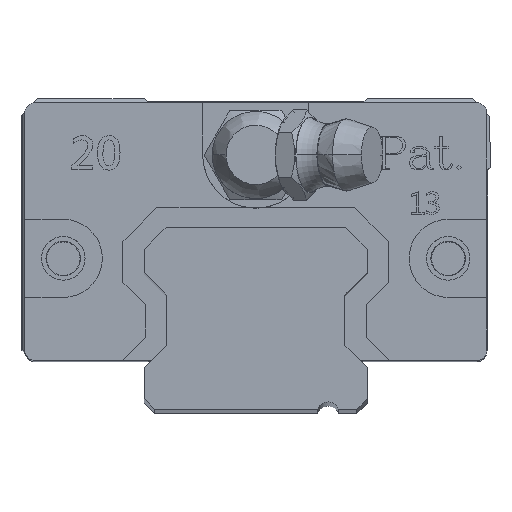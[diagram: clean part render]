
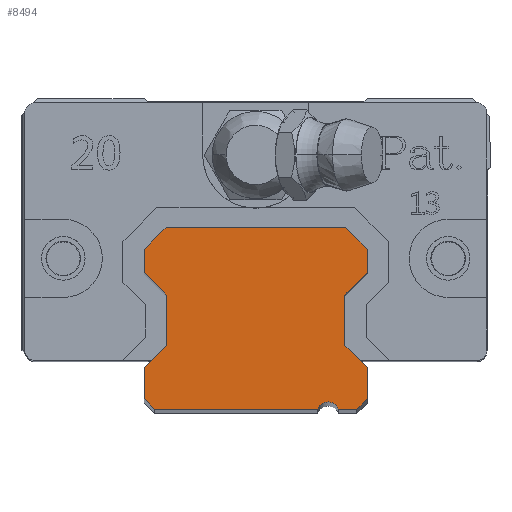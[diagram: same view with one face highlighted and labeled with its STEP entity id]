
A CAD part, top view. The second image highlights one B-rep face of the part: STEP entity #8494.
In plain terms, the highlighted planar face has unit normal (0, 0, 1).
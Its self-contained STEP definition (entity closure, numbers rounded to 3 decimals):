
#2 = VECTOR ( 'NONE', #5114, 1000. ) ;
#214 = ORIENTED_EDGE ( 'NONE', *, *, #2136, .T. ) ;
#606 = DIRECTION ( 'NONE',  ( 0., 1., 0. ) ) ;
#607 = CARTESIAN_POINT ( 'NONE',  ( 6.5, -14.69, 110. ) ) ;
#712 = DIRECTION ( 'NONE',  ( -1., 0., 0. ) ) ;
#777 = LINE ( 'NONE', #5893, #14917 ) ;
#1008 = ORIENTED_EDGE ( 'NONE', *, *, #13046, .T. ) ;
#1052 = LINE ( 'NONE', #17226, #2 ) ;
#1309 = VERTEX_POINT ( 'NONE', #2176 ) ;
#1709 = EDGE_CURVE ( 'NONE', #1777, #15656, #6228, .T. ) ;
#1777 = VERTEX_POINT ( 'NONE', #13558 ) ;
#1821 = DIRECTION ( 'NONE',  ( 0., 1., 0. ) ) ;
#1963 = EDGE_CURVE ( 'NONE', #3154, #1777, #15395, .T. ) ;
#2136 = EDGE_CURVE ( 'NONE', #14447, #1309, #12022, .T. ) ;
#2176 = CARTESIAN_POINT ( 'NONE',  ( -10., -2.1, 110. ) ) ;
#2268 = VECTOR ( 'NONE', #12169, 1000. ) ;
#2354 = EDGE_CURVE ( 'NONE', #3418, #8303, #4488, .T. ) ;
#2644 = FACE_OUTER_BOUND ( 'NONE', #16187, .T. ) ;
#2658 = EDGE_CURVE ( 'NONE', #3926, #10911, #11096, .T. ) ;
#2765 = CARTESIAN_POINT ( 'NONE',  ( -10., -10.6, 110. ) ) ;
#2922 = DIRECTION ( 'NONE',  ( 0.707, -0.707, 0. ) ) ;
#2951 = VERTEX_POINT ( 'NONE', #2765 ) ;
#2957 = DIRECTION ( 'NONE',  ( 0., -1., 0. ) ) ;
#3022 = ORIENTED_EDGE ( 'NONE', *, *, #1709, .T. ) ;
#3120 = ORIENTED_EDGE ( 'NONE', *, *, #4978, .T. ) ;
#3128 = ORIENTED_EDGE ( 'NONE', *, *, #7072, .T. ) ;
#3135 = VECTOR ( 'NONE', #1821, 1000. ) ;
#3154 = VERTEX_POINT ( 'NONE', #12852 ) ;
#3182 = LINE ( 'NONE', #7423, #5700 ) ;
#3418 = VERTEX_POINT ( 'NONE', #13731 ) ;
#3675 = CARTESIAN_POINT ( 'NONE',  ( -10., 0., 110. ) ) ;
#3767 = LINE ( 'NONE', #12425, #4778 ) ;
#3870 = VECTOR ( 'NONE', #4319, 1000. ) ;
#3926 = VERTEX_POINT ( 'NONE', #7724 ) ;
#3984 = CARTESIAN_POINT ( 'NONE',  ( -8.035, 1.965, 110. ) ) ;
#4112 = CARTESIAN_POINT ( 'NONE',  ( -10., -10.6, 110. ) ) ;
#4151 = ORIENTED_EDGE ( 'NONE', *, *, #2354, .T. ) ;
#4196 = DIRECTION ( 'NONE',  ( -0.707, 0.707, 0. ) ) ;
#4311 = VECTOR ( 'NONE', #9379, 1000. ) ;
#4319 = DIRECTION ( 'NONE',  ( -0.707, 0.707, 0. ) ) ;
#4441 = VECTOR ( 'NONE', #10324, 1000. ) ;
#4477 = ORIENTED_EDGE ( 'NONE', *, *, #14496, .T. ) ;
#4488 = LINE ( 'NONE', #6880, #3870 ) ;
#4518 = CARTESIAN_POINT ( 'NONE',  ( -10., -13.4, 110. ) ) ;
#4630 = CARTESIAN_POINT ( 'NONE',  ( 8., -4.1, 110. ) ) ;
#4661 = VERTEX_POINT ( 'NONE', #17080 ) ;
#4778 = VECTOR ( 'NONE', #4196, 1000. ) ;
#4935 = EDGE_CURVE ( 'NONE', #15742, #16005, #3182, .T. ) ;
#4963 = CARTESIAN_POINT ( 'NONE',  ( 7.435, -14.335, 110. ) ) ;
#4978 = EDGE_CURVE ( 'NONE', #8474, #8125, #8763, .T. ) ;
#5114 = DIRECTION ( 'NONE',  ( 0.707, -0.707, 0. ) ) ;
#5445 = AXIS2_PLACEMENT_3D ( 'NONE', #607, #15297, #8636 ) ;
#5646 = CARTESIAN_POINT ( 'NONE',  ( 8., -4.1, 110. ) ) ;
#5700 = VECTOR ( 'NONE', #712, 1000. ) ;
#5893 = CARTESIAN_POINT ( 'NONE',  ( 8., -8.6, 110. ) ) ;
#6071 = ORIENTED_EDGE ( 'NONE', *, *, #11139, .T. ) ;
#6114 = VECTOR ( 'NONE', #9287, 1000. ) ;
#6189 = ORIENTED_EDGE ( 'NONE', *, *, #12834, .T. ) ;
#6228 = LINE ( 'NONE', #11265, #6952 ) ;
#6510 = ORIENTED_EDGE ( 'NONE', *, *, #9183, .T. ) ;
#6539 = ORIENTED_EDGE ( 'NONE', *, *, #13693, .T. ) ;
#6555 = VECTOR ( 'NONE', #16892, 1000. ) ;
#6714 = AXIS2_PLACEMENT_3D ( 'NONE', #12530, #16505, #13863 ) ;
#6848 = LINE ( 'NONE', #4112, #2268 ) ;
#6880 = CARTESIAN_POINT ( 'NONE',  ( 10., -10.6, 110. ) ) ;
#6952 = VECTOR ( 'NONE', #16671, 1000. ) ;
#7060 = PLANE ( 'NONE',  #5445 ) ;
#7072 = EDGE_CURVE ( 'NONE', #2951, #3154, #6848, .T. ) ;
#7112 = VERTEX_POINT ( 'NONE', #12779 ) ;
#7423 = CARTESIAN_POINT ( 'NONE',  ( 8.035, 1.965, 110. ) ) ;
#7498 = CARTESIAN_POINT ( 'NONE',  ( 8., -8.6, 110. ) ) ;
#7656 = ORIENTED_EDGE ( 'NONE', *, *, #16626, .T. ) ;
#7692 = EDGE_CURVE ( 'NONE', #1309, #3926, #1052, .T. ) ;
#7724 = CARTESIAN_POINT ( 'NONE',  ( -8., -4.1, 110. ) ) ;
#8084 = VECTOR ( 'NONE', #2922, 1000. ) ;
#8125 = VERTEX_POINT ( 'NONE', #17191 ) ;
#8303 = VERTEX_POINT ( 'NONE', #7498 ) ;
#8392 = VECTOR ( 'NONE', #2957, 1000. ) ;
#8474 = VERTEX_POINT ( 'NONE', #16264 ) ;
#8492 = EDGE_CURVE ( 'NONE', #16005, #14447, #16108, .T. ) ;
#8494 = ADVANCED_FACE ( 'NONE', ( #2644 ), #7060, .T. ) ;
#8545 = LINE ( 'NONE', #16854, #3135 ) ;
#8636 = DIRECTION ( 'NONE',  ( 1., 0., 0. ) ) ;
#8659 = CARTESIAN_POINT ( 'NONE',  ( 10., 0., 110. ) ) ;
#8763 = LINE ( 'NONE', #12654, #6555 ) ;
#9131 = ORIENTED_EDGE ( 'NONE', *, *, #8492, .T. ) ;
#9183 = EDGE_CURVE ( 'NONE', #10911, #2951, #11906, .T. ) ;
#9287 = DIRECTION ( 'NONE',  ( 0., -1., 0. ) ) ;
#9379 = DIRECTION ( 'NONE',  ( -0.707, -0.707, 0. ) ) ;
#9421 = DIRECTION ( 'NONE',  ( -0.707, -0.707, 0. ) ) ;
#9431 = VERTEX_POINT ( 'NONE', #4630 ) ;
#9607 = CARTESIAN_POINT ( 'NONE',  ( -8., -4.1, 110. ) ) ;
#9631 = LINE ( 'NONE', #5646, #17180 ) ;
#9644 = ORIENTED_EDGE ( 'NONE', *, *, #12933, .T. ) ;
#10088 = DIRECTION ( 'NONE',  ( 1., 0., 0. ) ) ;
#10324 = DIRECTION ( 'NONE',  ( 0., 1., 0. ) ) ;
#10509 = CARTESIAN_POINT ( 'NONE',  ( 10., -13.4, 110. ) ) ;
#10631 = VECTOR ( 'NONE', #9421, 1000. ) ;
#10673 = VECTOR ( 'NONE', #10088, 1000. ) ;
#10815 = CARTESIAN_POINT ( 'NONE',  ( -8., -8.6, 110. ) ) ;
#10911 = VERTEX_POINT ( 'NONE', #10815 ) ;
#11096 = LINE ( 'NONE', #9607, #8392 ) ;
#11139 = EDGE_CURVE ( 'NONE', #4661, #8474, #11413, .T. ) ;
#11265 = CARTESIAN_POINT ( 'NONE',  ( -9.065, -14.335, 110. ) ) ;
#11413 = LINE ( 'NONE', #4963, #10673 ) ;
#11827 = LINE ( 'NONE', #10509, #4441 ) ;
#11906 = LINE ( 'NONE', #13335, #10631 ) ;
#12022 = LINE ( 'NONE', #16260, #6114 ) ;
#12169 = DIRECTION ( 'NONE',  ( 0., -1., 0. ) ) ;
#12316 = CARTESIAN_POINT ( 'NONE',  ( 8.035, 1.965, 110. ) ) ;
#12425 = CARTESIAN_POINT ( 'NONE',  ( 10., 0., 110. ) ) ;
#12530 = CARTESIAN_POINT ( 'NONE',  ( 6.5, -14.69, 110. ) ) ;
#12654 = CARTESIAN_POINT ( 'NONE',  ( 9.065, -14.335, 110. ) ) ;
#12779 = CARTESIAN_POINT ( 'NONE',  ( 10., -2.1, 110. ) ) ;
#12834 = EDGE_CURVE ( 'NONE', #8303, #9431, #777, .T. ) ;
#12852 = CARTESIAN_POINT ( 'NONE',  ( -10., -13.4, 110. ) ) ;
#12933 = EDGE_CURVE ( 'NONE', #8125, #3418, #11827, .T. ) ;
#13046 = EDGE_CURVE ( 'NONE', #15656, #4661, #13239, .T. ) ;
#13239 = CIRCLE ( 'NONE', #6714, 1. ) ;
#13335 = CARTESIAN_POINT ( 'NONE',  ( -8., -8.6, 110. ) ) ;
#13558 = CARTESIAN_POINT ( 'NONE',  ( -9.065, -14.335, 110. ) ) ;
#13562 = VERTEX_POINT ( 'NONE', #8659 ) ;
#13693 = EDGE_CURVE ( 'NONE', #9431, #7112, #9631, .T. ) ;
#13723 = ORIENTED_EDGE ( 'NONE', *, *, #4935, .T. ) ;
#13731 = CARTESIAN_POINT ( 'NONE',  ( 10., -10.6, 110. ) ) ;
#13863 = DIRECTION ( 'NONE',  ( 1., 0., 0. ) ) ;
#14130 = CARTESIAN_POINT ( 'NONE',  ( 5.565, -14.335, 110. ) ) ;
#14201 = ORIENTED_EDGE ( 'NONE', *, *, #7692, .T. ) ;
#14447 = VERTEX_POINT ( 'NONE', #3675 ) ;
#14496 = EDGE_CURVE ( 'NONE', #13562, #15742, #3767, .T. ) ;
#14758 = ORIENTED_EDGE ( 'NONE', *, *, #2658, .T. ) ;
#14917 = VECTOR ( 'NONE', #606, 1000. ) ;
#15297 = DIRECTION ( 'NONE',  ( 0., 0., 1. ) ) ;
#15395 = LINE ( 'NONE', #4518, #8084 ) ;
#15656 = VERTEX_POINT ( 'NONE', #14130 ) ;
#15742 = VERTEX_POINT ( 'NONE', #12316 ) ;
#15948 = CARTESIAN_POINT ( 'NONE',  ( -8.035, 1.965, 110. ) ) ;
#16005 = VERTEX_POINT ( 'NONE', #15948 ) ;
#16108 = LINE ( 'NONE', #3984, #4311 ) ;
#16187 = EDGE_LOOP ( 'NONE', ( #3128, #16469, #3022, #1008, #6071, #3120, #9644, #4151, #6189, #6539, #7656, #4477, #13723, #9131, #214, #14201, #14758, #6510 ) ) ;
#16260 = CARTESIAN_POINT ( 'NONE',  ( -10., 0., 110. ) ) ;
#16264 = CARTESIAN_POINT ( 'NONE',  ( 9.065, -14.335, 110. ) ) ;
#16469 = ORIENTED_EDGE ( 'NONE', *, *, #1963, .T. ) ;
#16505 = DIRECTION ( 'NONE',  ( 0., 0., -1. ) ) ;
#16528 = DIRECTION ( 'NONE',  ( 0.707, 0.707, 0. ) ) ;
#16626 = EDGE_CURVE ( 'NONE', #7112, #13562, #8545, .T. ) ;
#16671 = DIRECTION ( 'NONE',  ( 1., 0., 0. ) ) ;
#16854 = CARTESIAN_POINT ( 'NONE',  ( 10., -2.1, 110. ) ) ;
#16892 = DIRECTION ( 'NONE',  ( 0.707, 0.707, 0. ) ) ;
#17080 = CARTESIAN_POINT ( 'NONE',  ( 7.435, -14.335, 110. ) ) ;
#17180 = VECTOR ( 'NONE', #16528, 1000. ) ;
#17191 = CARTESIAN_POINT ( 'NONE',  ( 10., -13.4, 110. ) ) ;
#17226 = CARTESIAN_POINT ( 'NONE',  ( -10., -2.1, 110. ) ) ;
